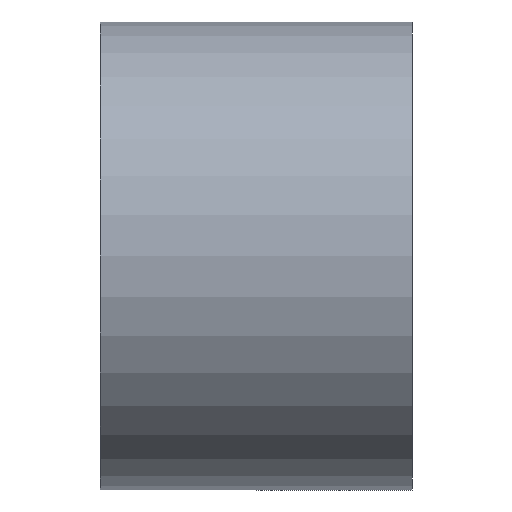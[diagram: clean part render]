
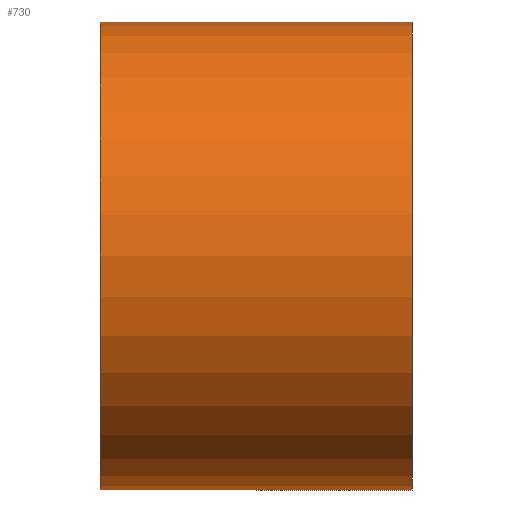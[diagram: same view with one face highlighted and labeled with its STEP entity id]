
A CAD part, front view. The second image highlights one B-rep face of the part: STEP entity #730.
In plain terms, the highlighted cylindrical face has radius 15 mm (diameter 30 mm), a partial arc.
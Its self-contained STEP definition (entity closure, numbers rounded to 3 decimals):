
#12 = AXIS2_PLACEMENT_3D ( 'NONE', #285, #352, #15 ) ;
#15 = DIRECTION ( 'NONE',  ( 0., 0., 1. ) ) ;
#20 = ORIENTED_EDGE ( 'NONE', *, *, #234, .T. ) ;
#26 = VERTEX_POINT ( 'NONE', #590 ) ;
#93 = FACE_OUTER_BOUND ( 'NONE', #479, .T. ) ;
#96 = CYLINDRICAL_SURFACE ( 'NONE', #560, 15. ) ;
#145 = CIRCLE ( 'NONE', #404, 15. ) ;
#148 = EDGE_CURVE ( 'NONE', #818, #437, #205, .T. ) ;
#198 = VECTOR ( 'NONE', #596, 1000. ) ;
#205 = LINE ( 'NONE', #686, #744 ) ;
#234 = EDGE_CURVE ( 'NONE', #26, #818, #569, .T. ) ;
#244 = LINE ( 'NONE', #319, #198 ) ;
#285 = CARTESIAN_POINT ( 'NONE',  ( 10., 0., 0. ) ) ;
#319 = CARTESIAN_POINT ( 'NONE',  ( 0., 0., -15. ) ) ;
#335 = VERTEX_POINT ( 'NONE', #719 ) ;
#352 = DIRECTION ( 'NONE',  ( -1., 0., 0. ) ) ;
#358 = ORIENTED_EDGE ( 'NONE', *, *, #548, .F. ) ;
#404 = AXIS2_PLACEMENT_3D ( 'NONE', #635, #432, #562 ) ;
#432 = DIRECTION ( 'NONE',  ( -1., 0., 0. ) ) ;
#437 = VERTEX_POINT ( 'NONE', #742 ) ;
#453 = ORIENTED_EDGE ( 'NONE', *, *, #875, .F. ) ;
#479 = EDGE_LOOP ( 'NONE', ( #358, #20, #726, #453 ) ) ;
#548 = EDGE_CURVE ( 'NONE', #26, #335, #244, .T. ) ;
#560 = AXIS2_PLACEMENT_3D ( 'NONE', #577, #797, #650 ) ;
#562 = DIRECTION ( 'NONE',  ( 0., 0., 1. ) ) ;
#569 = CIRCLE ( 'NONE', #12, 15. ) ;
#577 = CARTESIAN_POINT ( 'NONE',  ( 0., 0., 0. ) ) ;
#590 = CARTESIAN_POINT ( 'NONE',  ( 10., 0., -15. ) ) ;
#596 = DIRECTION ( 'NONE',  ( -1., 0., 0. ) ) ;
#608 = CARTESIAN_POINT ( 'NONE',  ( 10., 0., 15. ) ) ;
#635 = CARTESIAN_POINT ( 'NONE',  ( -10., 0., 0. ) ) ;
#650 = DIRECTION ( 'NONE',  ( 0., 0., 1. ) ) ;
#686 = CARTESIAN_POINT ( 'NONE',  ( 0., 0., 15. ) ) ;
#690 = DIRECTION ( 'NONE',  ( -1., 0., 0. ) ) ;
#719 = CARTESIAN_POINT ( 'NONE',  ( -10., 0., -15. ) ) ;
#726 = ORIENTED_EDGE ( 'NONE', *, *, #148, .T. ) ;
#730 = ADVANCED_FACE ( 'NONE', ( #93 ), #96, .T. ) ;
#742 = CARTESIAN_POINT ( 'NONE',  ( -10., 0., 15. ) ) ;
#744 = VECTOR ( 'NONE', #690, 1000. ) ;
#797 = DIRECTION ( 'NONE',  ( -1., 0., 0. ) ) ;
#818 = VERTEX_POINT ( 'NONE', #608 ) ;
#875 = EDGE_CURVE ( 'NONE', #335, #437, #145, .T. ) ;
